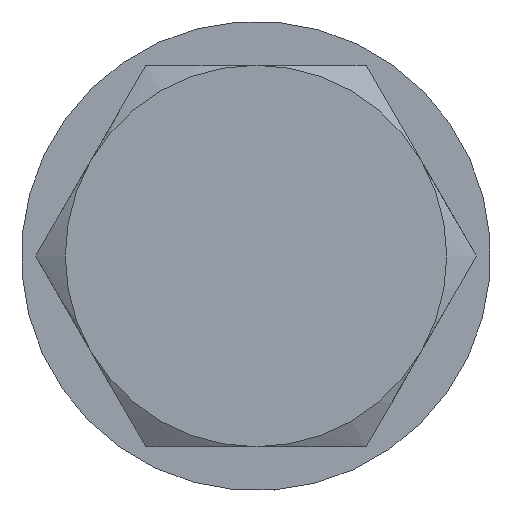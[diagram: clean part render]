
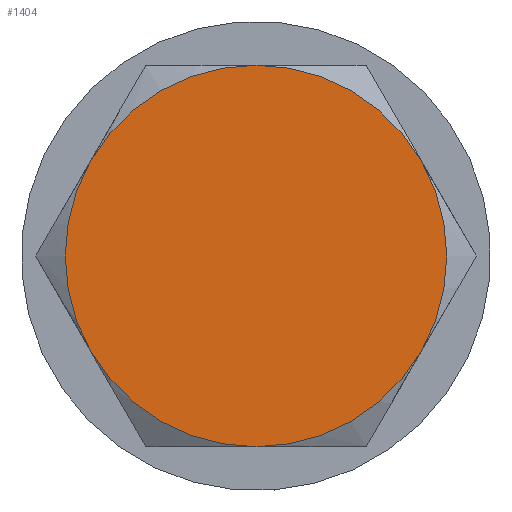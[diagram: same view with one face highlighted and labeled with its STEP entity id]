
A CAD part, left-side view. The second image highlights one B-rep face of the part: STEP entity #1404.
In plain terms, the highlighted planar face has unit normal (-1, 0, 0).
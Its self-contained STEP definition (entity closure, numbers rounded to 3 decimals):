
#1205=CARTESIAN_POINT('',(-5.3,0.0,6.5));
#1206=VERTEX_POINT('',#1205);
#1325=CARTESIAN_POINT('',(-5.3,0.0,-6.5));
#1326=VERTEX_POINT('',#1325);
#1366=CARTESIAN_POINT('',(-5.3,0.0,0.0));
#1367=DIRECTION('',(1.0,0.0,0.0));
#1368=DIRECTION('',(0.0,0.0,-1.0));
#1369=AXIS2_PLACEMENT_3D('',#1366,#1367,#1368);
#1370=CIRCLE('',#1369,6.5);
#1371=EDGE_CURVE('',#1206,#1326,#1370,.T.);
#1382=CARTESIAN_POINT('',(-5.3,0.0,0.0));
#1383=DIRECTION('',(1.0,0.0,0.0));
#1384=DIRECTION('',(0.0,0.0,-1.0));
#1385=AXIS2_PLACEMENT_3D('',#1382,#1383,#1384);
#1386=CIRCLE('',#1385,6.5);
#1387=EDGE_CURVE('',#1326,#1206,#1386,.T.);
#1395=CARTESIAN_POINT('',(-5.3,0.0,-3.25));
#1396=DIRECTION('',(-1.0,0.0,0.0));
#1397=DIRECTION('',(0.0,1.0,0.0));
#1398=AXIS2_PLACEMENT_3D('',#1395,#1396,#1397);
#1399=PLANE('',#1398);
#1400=ORIENTED_EDGE('',*,*,#1387,.F.);
#1401=ORIENTED_EDGE('',*,*,#1371,.F.);
#1402=EDGE_LOOP('',(#1400,#1401));
#1403=FACE_OUTER_BOUND('',#1402,.T.);
#1404=ADVANCED_FACE('',(#1403),#1399,.T.);
